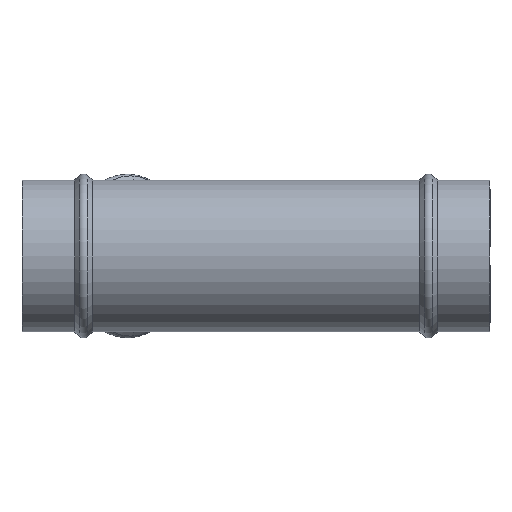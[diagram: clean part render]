
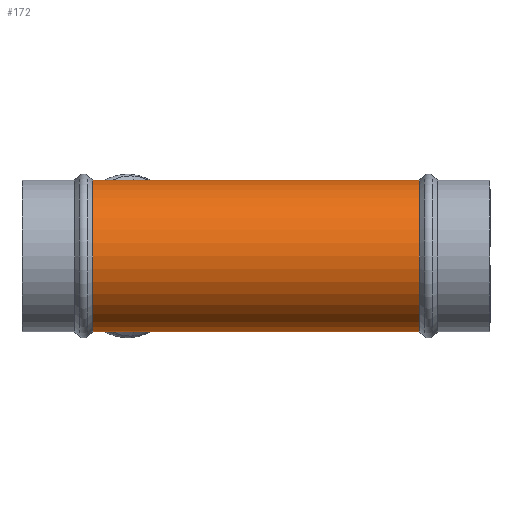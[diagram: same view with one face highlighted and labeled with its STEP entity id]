
A CAD part, front view. The second image highlights one B-rep face of the part: STEP entity #172.
In plain terms, the highlighted cylindrical face has radius 42.5 mm (diameter 85 mm), a full revolution.
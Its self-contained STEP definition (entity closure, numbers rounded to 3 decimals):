
#172=ADVANCED_FACE('',(#272,#273,#274),#182,.T.);
#182=CYLINDRICAL_SURFACE('',#678,42.5);
#185=ELLIPSE('',#595,46.002,42.5);
#186=ELLIPSE('',#596,111.058,42.5);
#272=FACE_BOUND('',#360,.T.);
#273=FACE_BOUND('',#361,.T.);
#274=FACE_BOUND('',#362,.T.);
#360=EDGE_LOOP('',(#451));
#361=EDGE_LOOP('',(#452));
#362=EDGE_LOOP('',(#453,#454));
#451=ORIENTED_EDGE('',*,*,#539,.T.);
#452=ORIENTED_EDGE('',*,*,#538,.F.);
#453=ORIENTED_EDGE('',*,*,#506,.T.);
#454=ORIENTED_EDGE('',*,*,#505,.T.);
#459=VERTEX_POINT('',#870);
#460=VERTEX_POINT('',#871);
#492=VERTEX_POINT('',#967);
#493=VERTEX_POINT('',#970);
#505=EDGE_CURVE('',#459,#460,#185,.T.);
#506=EDGE_CURVE('',#460,#459,#186,.T.);
#538=EDGE_CURVE('',#492,#492,#580,.T.);
#539=EDGE_CURVE('',#493,#493,#581,.T.);
#580=CIRCLE('',#659,42.5);
#581=CIRCLE('',#661,42.5);
#595=AXIS2_PLACEMENT_3D('',#869,#691,#692);
#596=AXIS2_PLACEMENT_3D('',#872,#693,#694);
#659=AXIS2_PLACEMENT_3D('',#966,#819,#820);
#661=AXIS2_PLACEMENT_3D('',#969,#823,#824);
#678=AXIS2_PLACEMENT_3D('',#994,#857,#858);
#691=DIRECTION('',(0.924,-0.383,0.));
#692=DIRECTION('',(-0.383,-0.924,0.));
#693=DIRECTION('',(-0.383,-0.924,0.));
#694=DIRECTION('',(0.924,-0.383,0.));
#819=DIRECTION('',(1.,0.,0.));
#820=DIRECTION('',(0.,1.,0.));
#823=DIRECTION('',(1.,0.,0.));
#824=DIRECTION('',(0.,1.,0.));
#857=DIRECTION('',(1.,0.,0.));
#858=DIRECTION('',(0.,1.,0.));
#869=CARTESIAN_POINT('',(184.,0.,0.));
#870=CARTESIAN_POINT('',(184.,0.,-42.5));
#871=CARTESIAN_POINT('',(184.,0.,42.5));
#872=CARTESIAN_POINT('',(184.,0.,0.));
#966=CARTESIAN_POINT('',(222.843,0.,0.));
#967=CARTESIAN_POINT('',(222.843,42.5,0.));
#969=CARTESIAN_POINT('',(39.657,0.,0.));
#970=CARTESIAN_POINT('',(39.657,42.5,0.));
#994=CARTESIAN_POINT('',(0.,0.,0.));
